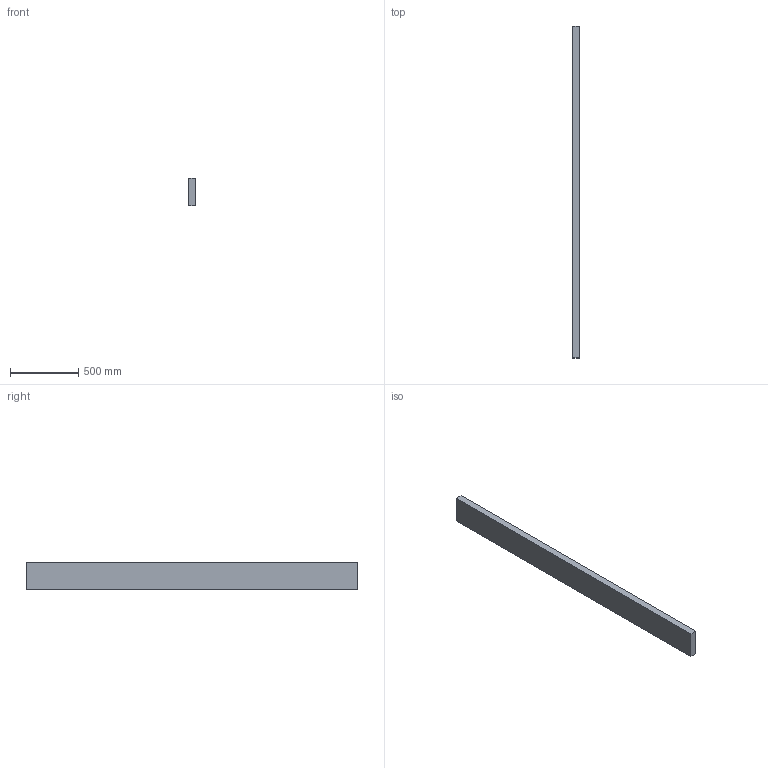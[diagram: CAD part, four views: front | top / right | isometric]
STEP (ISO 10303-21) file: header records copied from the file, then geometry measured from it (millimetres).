
FILE_DESCRIPTION(/* description */ (''),/* implementation_level */ '2;1');
FILE_NAME(/* name */ 'SM_Baffle2x8x96',/* time_stamp */ '2024-10-15T11:57:06-05:00',/* author */ (''),/* organization */ (''),/* preprocessor_version */ 'ST-DEVELOPER v19.2',/* originating_system */ 'Rhino 8.4',/* authorisation */ '');
FILE_SCHEMA (('CONFIG_CONTROL_DESIGN'));
Length unit declared in the file: inch
Products named in the file (1): Document
Bounding box: 50.8 x 2438.4 x 203.2 mm (x, y, z)
Volume: 25170530.3 mm3; surface area: 1259352.3 mm2
Topology: 1 solids, 1 shells, 6 faces, 12 edges, 8 vertices
Faces by surface type: plane 6
Entity records: 226 total; most frequent: CARTESIAN_POINT 40, ORIENTED_EDGE 24, EDGE_CURVE 12, B_SPLINE_CURVE_WITH_KNOTS 12, DIRECTION 10, VERTEX_POINT 8, AXIS2_PLACEMENT_3D 8, ORGANIZATION 7
